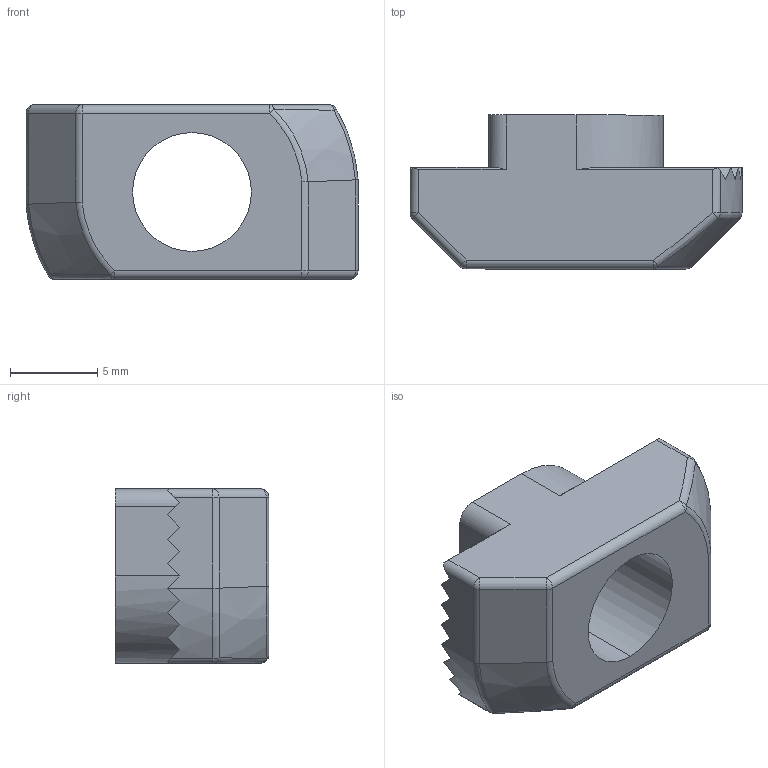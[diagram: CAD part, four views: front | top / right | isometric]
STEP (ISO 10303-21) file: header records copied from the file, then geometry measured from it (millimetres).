
FILE_DESCRIPTION (( 'STEP AP203' ), '1' );
FILE_NAME ('2018.010.004.STEP', '2024-07-30T03:44:26', ( '' ), ( '' ), 'SwSTEP 2.0', 'SolidWorks 2023', '' );
FILE_SCHEMA (( 'CONFIG_CONTROL_DESIGN' ));
Length unit declared in the file: millimetre
Products named in the file (1): 2018.010.004
Bounding box: 19 x 8.8 x 10 mm (x, y, z)
Volume: 895.2 mm3; surface area: 887.6 mm2
Topology: 1 solids, 1 shells, 78 faces, 200 edges, 118 vertices
Faces by surface type: plane 42, cylinder 20, sphere 8, torus 4, cone 2, bspline 2
Entity records: 2391 total; most frequent: CARTESIAN_POINT 589, ORIENTED_EDGE 388, DIRECTION 336, EDGE_CURVE 194, VERTEX_POINT 118, AXIS2_PLACEMENT_3D 117, VECTOR 102, LINE 102
